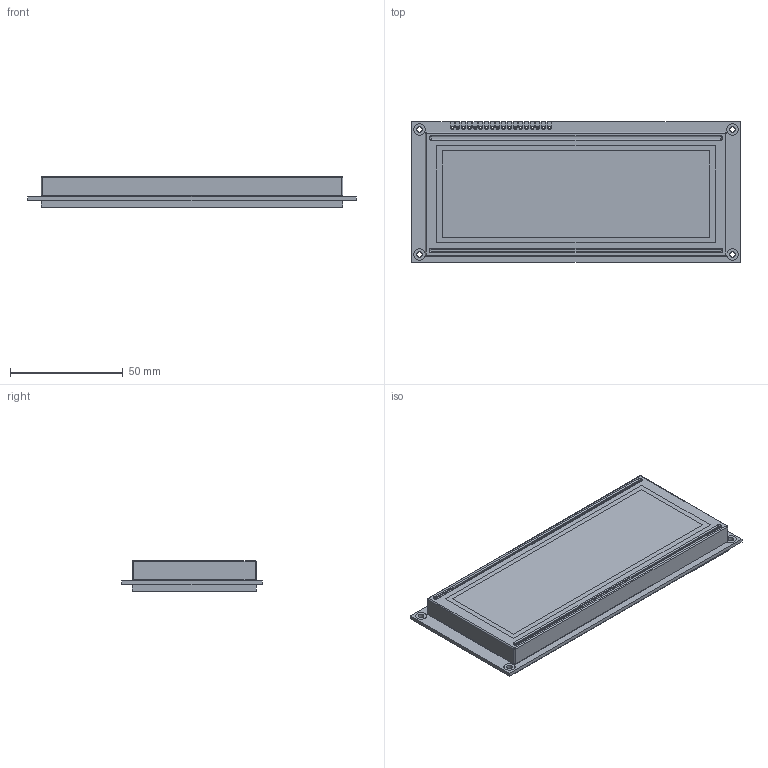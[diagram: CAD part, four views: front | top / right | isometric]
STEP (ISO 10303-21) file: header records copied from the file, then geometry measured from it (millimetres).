
FILE_DESCRIPTION (( 'STEP AP214' ), '1' );
FILE_NAME ('CFAH2004L.STEP', '2023-09-20T22:21:25', ( '' ), ( '' ), 'SwSTEP 2.0', 'SolidWorks 2021', '' );
FILE_SCHEMA (( 'AUTOMOTIVE_DESIGN' ));
Length unit declared in the file: millimetre
Products named in the file (1): CFAH2004L
Bounding box: 146 x 62.5 x 13.6 mm (x, y, z)
Volume: 102500 mm3; surface area: 39408 mm2
Topology: 2 solids, 2 shells, 1328 faces, 3734 edges, 2610 vertices
Faces by surface type: plane 717, bspline 531, cylinder 66, sphere 8, torus 6
Entity records: 69761 total; most frequent: CARTESIAN_POINT 37916, ORIENTED_EDGE 7452, DIRECTION 4452, EDGE_CURVE 3726, VERTEX_POINT 2610, VECTOR 2472, LINE 2472, EDGE_LOOP 1580
